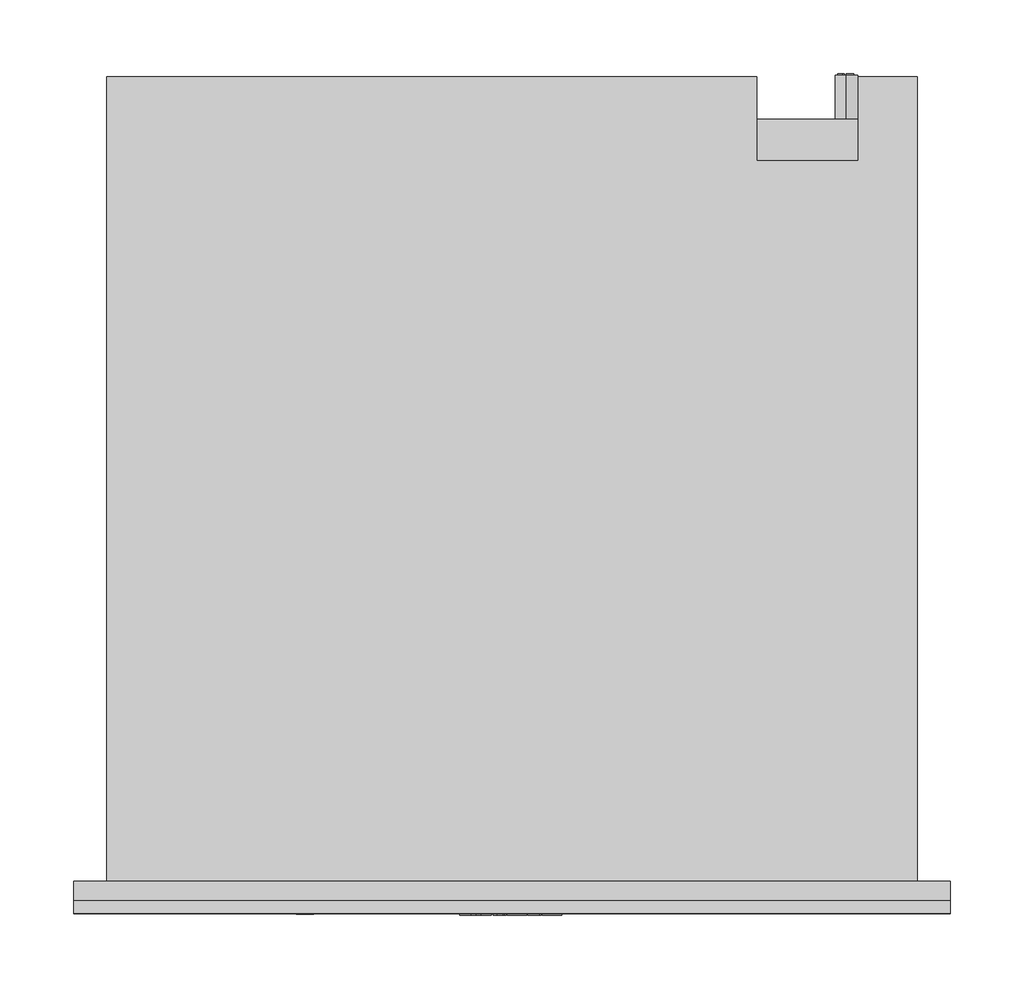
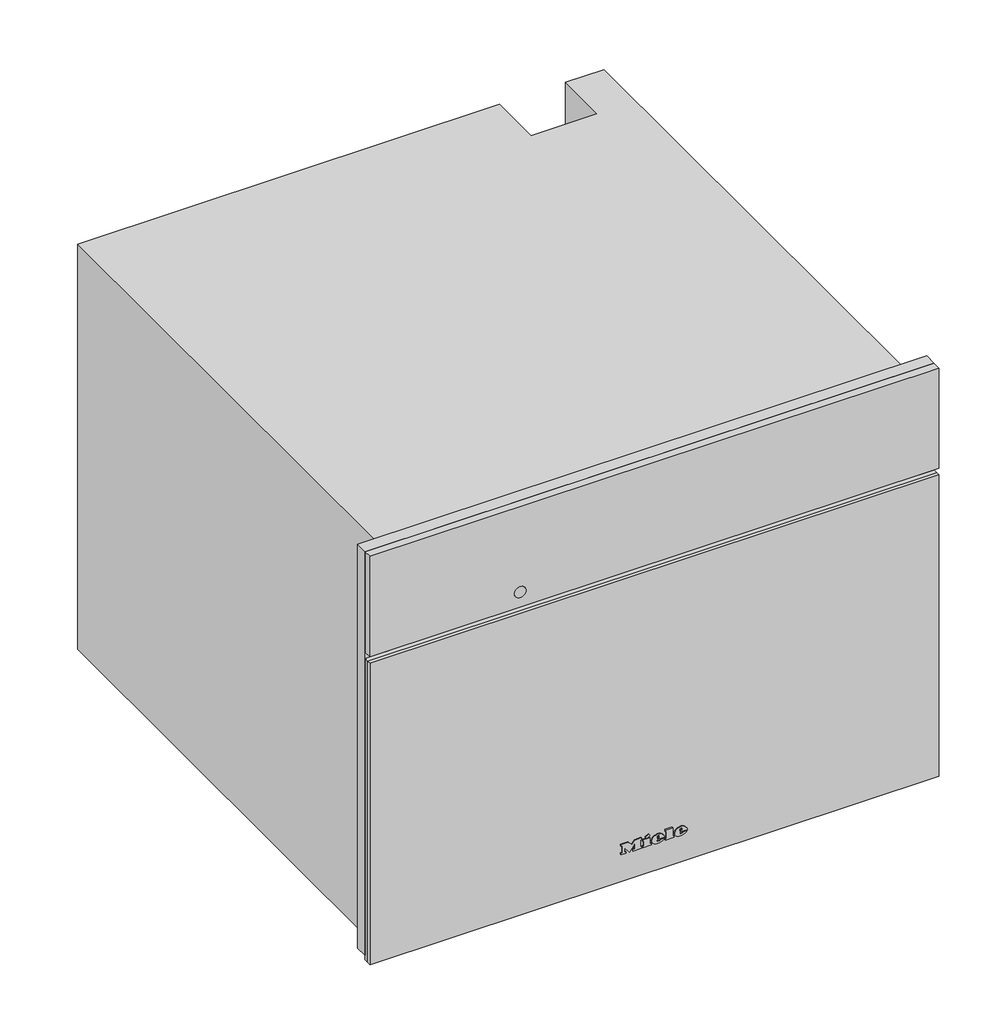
# Not in any storey: 1 proxy.
"""IFC4 building model written with IfcOpenShell, lengths in millimetres."""

from ifc_helpers import new_model, si_unit, origin, place, context, project, spatial, transform, mapped, element, save
from components import specialty_equipment_88979899

model = new_model("IFC4")

# Units and contexts
model_context = context("Model", 3, world=origin())
ifc_project = project(units=[si_unit("LENGTHUNIT", "METRE", prefix="MILLI")], contexts=[model_context])

# Site, building
site = spatial("IfcSite", under=ifc_project)
building = spatial("IfcBuilding", under=site)

# Proxy
placement = place(None, origin())
specialty_equipment_shape = specialty_equipment_88979899(model_context)
element("IfcBuildingElementProxy", 1, Name="12326550_BNE_DGC7440HCXPro_OBSWM : 23744088_BNE_12326550_DGC7440HCXPro_OBSWM", ObjectType="12326550_BNE_DGC7440HCXPro_OBSWM : 23744088_BNE_12326550_DGC7440HCXPro_OBSWM", at=placement, inside=building, context=model_context, shape_type="MappedRepresentation", body=[
    mapped(specialty_equipment_shape, transform((0.0, 0.0, 0.0), x_axis=(1.0, 0.0, 0.0), y_axis=(0.0, 1.0, 0.0), z_axis=(0.0, 0.0, 1.0))),
])

save(model, "model.ifc")
